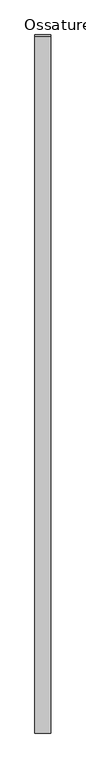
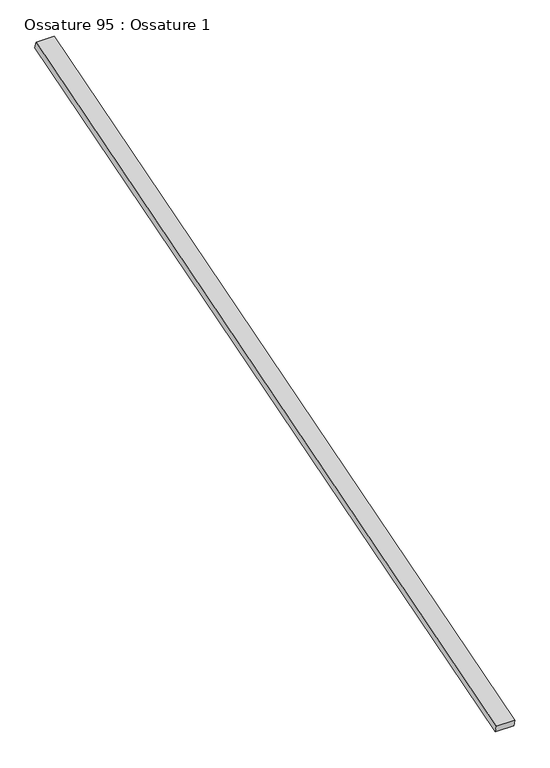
"""IFC4 building model written with IfcOpenShell, lengths in millimetres: beam geometry, Ossature 95 : Ossature 1."""

from ifc_helpers import new_model, si_unit, frame, origin, place, context, project, spatial, polyline, outline, extrude, source, transform, mapped, element, save


def ossature_95_ossature_1_ab9233b0(model_context):
    return source(origin(), model_context, "Body", "SweptSolid", [
        extrude(outline(polyline([(0.0, 0.0), (0.0, -4543.0299679), (-100.0, -4543.0299679), (-100.0, 0.0), (0.0, 0.0)])), frame((22906.6466393, -833.3913565, 8153.6336115), z_axis=(0.0, -0.28734788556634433, 0.9578262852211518), x_axis=(-1.0, 0.0, 0.0)), (0.0, 0.0, 1.0), 40.0),
    ])


if __name__ == "__main__":
    model = new_model("IFC4")
    model_context = context("Model", 3, world=origin())
    ifc_project = project(units=[si_unit("LENGTHUNIT", "METRE", prefix="MILLI")], contexts=[model_context])
    site = spatial("IfcSite", under=ifc_project)
    building = spatial("IfcBuilding", under=site)
    placement = place(None, origin())
    ossature_95_ossature_1_shape = ossature_95_ossature_1_ab9233b0(model_context)
    element("IfcBeam", 1, ObjectType="Ossature 95 : Ossature 1", at=placement, inside=building, context=model_context, shape_type="MappedRepresentation", body=[
        mapped(ossature_95_ossature_1_shape, transform((0.0, 0.0, 0.0), x_axis=(1.0, 0.0, 0.0), y_axis=(0.0, 1.0, 0.0), z_axis=(0.0, 0.0, 1.0))),
    ])
    save(model, "model.ifc")
